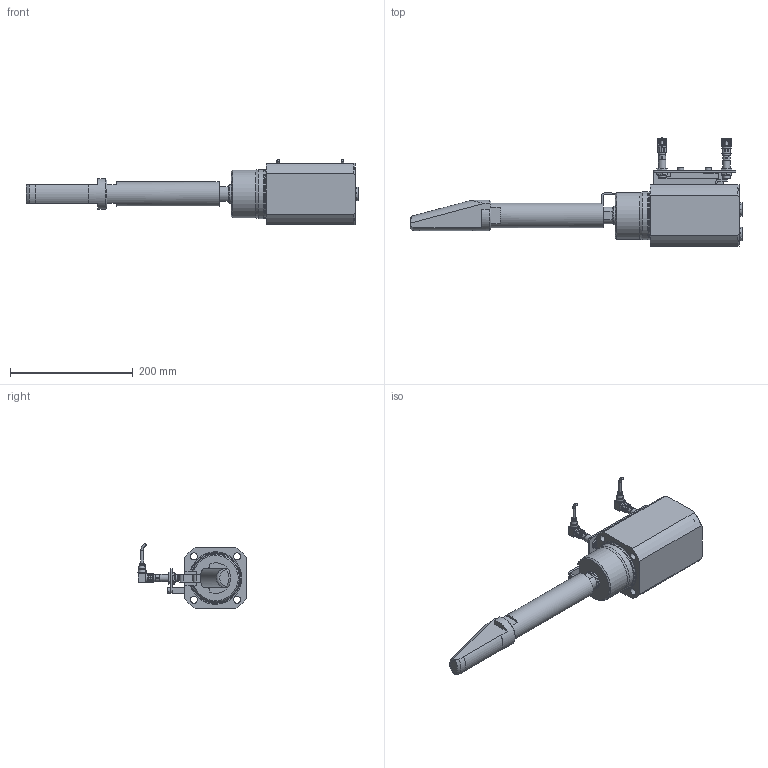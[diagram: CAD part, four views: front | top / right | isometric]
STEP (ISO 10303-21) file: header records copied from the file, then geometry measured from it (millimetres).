
FILE_DESCRIPTION(/* description */ (''),/* implementation_level */ '2;1');
FILE_NAME(/* name */ 'Z:\Standard products\1. QMC Clamping Systems\6. HECS - Integrated Wedge Clamp\HECS-70\HECS70-180 (05-03-18).stp',/* time_stamp */ '2018-03-05T14:42:31+01:00',/* author */ ('breep'),/* organization */ (''),/* preprocessor_version */ 'ST-DEVELOPER v16.1',/* originating_system */ 'Autodesk Inventor 2016',/* authorisation */ '');
FILE_SCHEMA (('AUTOMOTIVE_DESIGN { 1 0 10303 214 3 1 1 }'));
Length unit declared in the file: millimetre
Products named in the file (1): Part4
Bounding box: 541.8 x 176.66 x 106.75 mm (x, y, z)
Volume: 1861148.4 mm3; surface area: 251662.1 mm2
Topology: 1 solids, 29 shells, 714 faces, 1749 edges, 1114 vertices
Faces by surface type: plane 274, cylinder 249, cone 95, torus 64, sphere 18, bspline 14
Full cylindrical faces by diameter (mm): 0.5 x14, 2.179 x8, 4 x2, 4.917 x4, 5 x2, 6 x5, 6.2 x1, 7 x2, 10 x2, 10.385 x2, 10.917 x2, 11 x4, 11.5 x4, 11.6 x2, 12 x6, 12.2 x2, 14 x2, 14.95 x2, 16 x1, 17.294 x4, 17.5 x4, 20 x1, 29 x2, 29.35 x1, 29.95 x2, 30 x3, 33.95 x1, 35 x1, 38 x2, 38.8 x1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
Entity records: 20658 total; most frequent: CARTESIAN_POINT 4509, DIRECTION 3259, ORIENTED_EDGE 2812, EDGE_CURVE 1405, AXIS2_PLACEMENT_3D 1324, EDGE_LOOP 1037, VERTEX_POINT 1018, STYLED_ITEM 715
